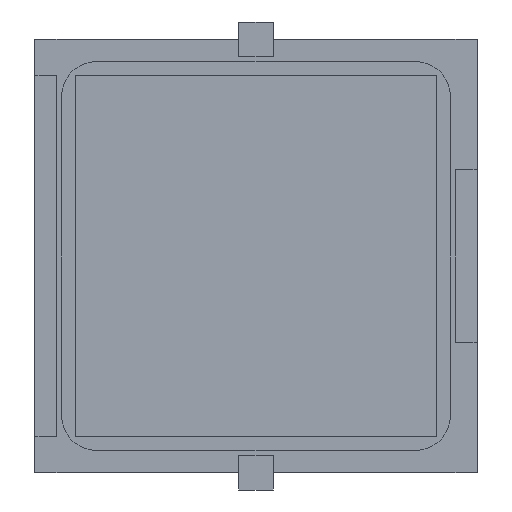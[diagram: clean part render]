
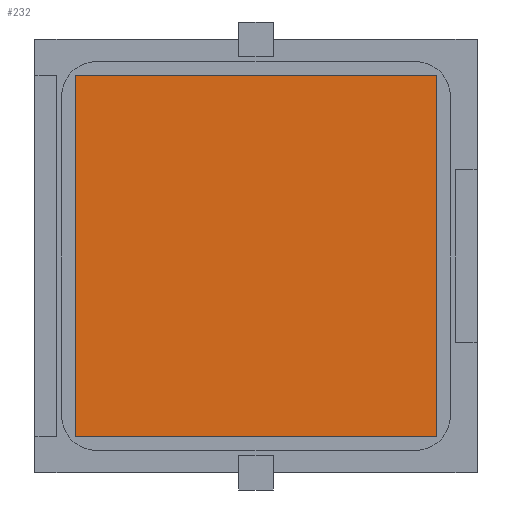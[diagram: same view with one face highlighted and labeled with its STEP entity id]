
A CAD part, front view. The second image highlights one B-rep face of the part: STEP entity #232.
In plain terms, the highlighted planar face has unit normal (0, -1, 0).
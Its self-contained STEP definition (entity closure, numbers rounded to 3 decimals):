
#27 = CARTESIAN_POINT ( 'NONE',  ( -10.5, -0.127, -10.5 ) ) ;
#180 = VECTOR ( 'NONE', #4021, 1000. ) ;
#232 = ADVANCED_FACE ( 'NONE', ( #2474 ), #4270, .F. ) ;
#890 = DIRECTION ( 'NONE',  ( 1., 0., 0. ) ) ;
#1148 = DIRECTION ( 'NONE',  ( 0., 1., 0. ) ) ;
#1250 = VECTOR ( 'NONE', #890, 1000. ) ;
#1439 = VERTEX_POINT ( 'NONE', #5380 ) ;
#1507 = LINE ( 'NONE', #27, #180 ) ;
#1524 = VERTEX_POINT ( 'NONE', #3589 ) ;
#1665 = LINE ( 'NONE', #3447, #4236 ) ;
#1724 = EDGE_CURVE ( 'NONE', #1439, #1524, #5751, .T. ) ;
#1845 = EDGE_LOOP ( 'NONE', ( #3595, #4229, #2224, #2870 ) ) ;
#1933 = LINE ( 'NONE', #3719, #3000 ) ;
#2224 = ORIENTED_EDGE ( 'NONE', *, *, #5505, .F. ) ;
#2474 = FACE_OUTER_BOUND ( 'NONE', #1845, .T. ) ;
#2870 = ORIENTED_EDGE ( 'NONE', *, *, #1724, .F. ) ;
#2917 = EDGE_CURVE ( 'NONE', #5663, #1439, #1507, .T. ) ;
#3000 = VECTOR ( 'NONE', #4198, 1000. ) ;
#3291 = VERTEX_POINT ( 'NONE', #4008 ) ;
#3447 = CARTESIAN_POINT ( 'NONE',  ( 10.5, -0.127, -10.5 ) ) ;
#3589 = CARTESIAN_POINT ( 'NONE',  ( 10.5, -0.127, 10.5 ) ) ;
#3595 = ORIENTED_EDGE ( 'NONE', *, *, #2917, .F. ) ;
#3719 = CARTESIAN_POINT ( 'NONE',  ( -10.5, -0.127, -10.5 ) ) ;
#4008 = CARTESIAN_POINT ( 'NONE',  ( 10.5, -0.127, -10.5 ) ) ;
#4021 = DIRECTION ( 'NONE',  ( 0., 0., 1. ) ) ;
#4198 = DIRECTION ( 'NONE',  ( -1., 0., 0. ) ) ;
#4229 = ORIENTED_EDGE ( 'NONE', *, *, #4399, .F. ) ;
#4236 = VECTOR ( 'NONE', #5232, 1000. ) ;
#4270 = PLANE ( 'NONE',  #4883 ) ;
#4399 = EDGE_CURVE ( 'NONE', #3291, #5663, #1933, .T. ) ;
#4685 = CARTESIAN_POINT ( 'NONE',  ( -10.5, -0.127, 10.5 ) ) ;
#4718 = DIRECTION ( 'NONE',  ( 0., 0., 1. ) ) ;
#4883 = AXIS2_PLACEMENT_3D ( 'NONE', #4685, #1148, #4718 ) ;
#5074 = CARTESIAN_POINT ( 'NONE',  ( -10.5, -0.127, -10.5 ) ) ;
#5232 = DIRECTION ( 'NONE',  ( 0., 0., -1. ) ) ;
#5250 = CARTESIAN_POINT ( 'NONE',  ( -10.5, -0.127, 10.5 ) ) ;
#5380 = CARTESIAN_POINT ( 'NONE',  ( -10.5, -0.127, 10.5 ) ) ;
#5505 = EDGE_CURVE ( 'NONE', #1524, #3291, #1665, .T. ) ;
#5663 = VERTEX_POINT ( 'NONE', #5074 ) ;
#5751 = LINE ( 'NONE', #5250, #1250 ) ;
